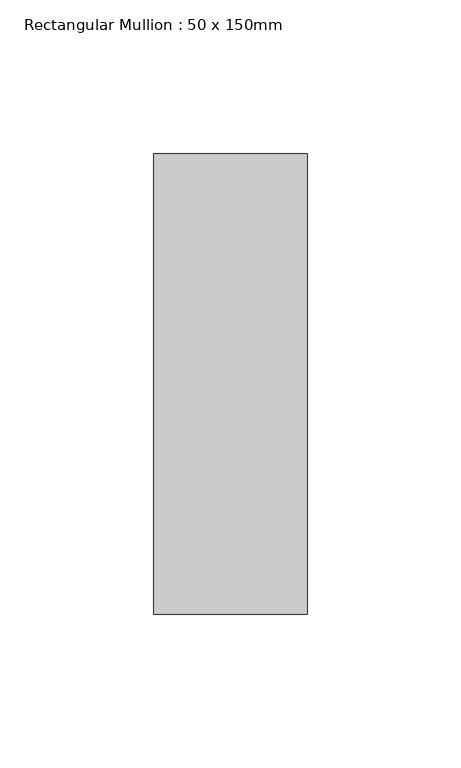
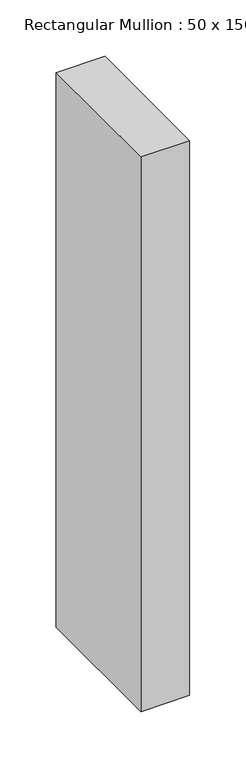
"""IFC4 building model written with IfcOpenShell, lengths in millimetres: member geometry, Rectangular Mullion : 50 x 150mm."""

from ifc_helpers import new_model, si_unit, frame, origin, place, context, project, spatial, polyline, outline, extrude, source, transform, mapped, element, save


def rectangular_mullion_50_x_150mm_46eb6b68(model_context):
    return source(origin(), model_context, "Body", "SweptSolid", [
        extrude(outline(polyline([(0.0, 75.0), (0.0, -75.0), (-50.0, -75.0), (-50.0, 75.0), (0.0, 75.0)])), frame((0.0, 0.0, -600.0000002), z_axis=(0.0, 0.0, 1.0), x_axis=(1.0, 0.0, 0.0)), (0.0, 0.0, 1.0), 600.0000002),
    ])


if __name__ == "__main__":
    model = new_model("IFC4")
    model_context = context("Model", 3, world=origin())
    ifc_project = project(units=[si_unit("LENGTHUNIT", "METRE", prefix="MILLI")], contexts=[model_context])
    site = spatial("IfcSite", under=ifc_project)
    building = spatial("IfcBuilding", under=site)
    placement = place(None, origin())
    rectangular_mullion_50_x_150mm_shape = rectangular_mullion_50_x_150mm_46eb6b68(model_context)
    element("IfcMember", 1, ObjectType="Rectangular Mullion : 50 x 150mm", at=placement, inside=building, context=model_context, shape_type="MappedRepresentation", body=[
        mapped(rectangular_mullion_50_x_150mm_shape, transform((0.0, 0.0, 0.0), x_axis=(1.0, 0.0, 0.0), y_axis=(0.0, 1.0, 0.0), z_axis=(0.0, 0.0, 1.0))),
    ])
    save(model, "model.ifc")
